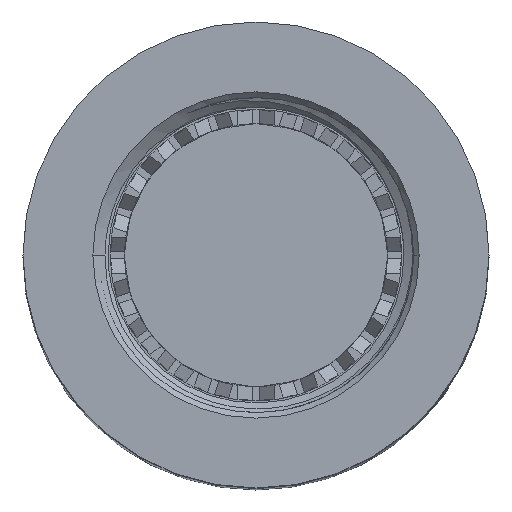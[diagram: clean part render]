
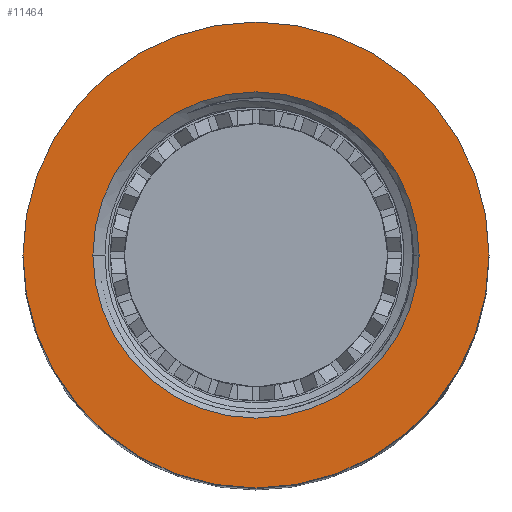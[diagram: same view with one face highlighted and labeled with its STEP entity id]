
A CAD part, top view. The second image highlights one B-rep face of the part: STEP entity #11464.
In plain terms, the highlighted planar face has unit normal (0, 0, 1).
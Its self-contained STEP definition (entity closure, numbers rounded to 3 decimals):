
#540 = EDGE_CURVE ( 'NONE', #5271, #5302, #1246, .T. ) ;
#1090 = AXIS2_PLACEMENT_3D ( 'NONE', #1199, #5090, #7833 ) ;
#1199 = CARTESIAN_POINT ( 'NONE',  ( 13.208, 0., 5.664 ) ) ;
#1246 = CIRCLE ( 'NONE', #12470, 9.246 ) ;
#1370 = DIRECTION ( 'NONE',  ( 1., 0., 0. ) ) ;
#2265 = CIRCLE ( 'NONE', #9408, 13.208 ) ;
#2337 = CARTESIAN_POINT ( 'NONE',  ( 9.246, 0., 5.664 ) ) ;
#2535 = DIRECTION ( 'NONE',  ( 1., 0., 0. ) ) ;
#2750 = EDGE_CURVE ( 'NONE', #9553, #12185, #2265, .T. ) ;
#2884 = EDGE_LOOP ( 'NONE', ( #3890, #6923 ) ) ;
#3232 = CARTESIAN_POINT ( 'NONE',  ( 0., 0., 5.664 ) ) ;
#3445 = CARTESIAN_POINT ( 'NONE',  ( 0., 0., 5.664 ) ) ;
#3890 = ORIENTED_EDGE ( 'NONE', *, *, #540, .T. ) ;
#4189 = AXIS2_PLACEMENT_3D ( 'NONE', #3445, #8644, #2535 ) ;
#4613 = EDGE_LOOP ( 'NONE', ( #9144, #11818 ) ) ;
#5078 = DIRECTION ( 'NONE',  ( 0., 0., -1. ) ) ;
#5090 = DIRECTION ( 'NONE',  ( 0., 0., 1. ) ) ;
#5271 = VERTEX_POINT ( 'NONE', #2337 ) ;
#5302 = VERTEX_POINT ( 'NONE', #7955 ) ;
#5515 = CARTESIAN_POINT ( 'NONE',  ( 0., 0., 5.664 ) ) ;
#5841 = DIRECTION ( 'NONE',  ( 1., 0., 0. ) ) ;
#6061 = FACE_OUTER_BOUND ( 'NONE', #4613, .T. ) ;
#6215 = CIRCLE ( 'NONE', #8252, 9.246 ) ;
#6578 = EDGE_CURVE ( 'NONE', #12185, #9553, #9689, .T. ) ;
#6923 = ORIENTED_EDGE ( 'NONE', *, *, #9708, .T. ) ;
#7739 = CARTESIAN_POINT ( 'NONE',  ( 13.208, 0., 5.664 ) ) ;
#7833 = DIRECTION ( 'NONE',  ( -1., 0., 0. ) ) ;
#7955 = CARTESIAN_POINT ( 'NONE',  ( -9.246, 0., 5.664 ) ) ;
#8252 = AXIS2_PLACEMENT_3D ( 'NONE', #8822, #11973, #5841 ) ;
#8644 = DIRECTION ( 'NONE',  ( 0., 0., -1. ) ) ;
#8822 = CARTESIAN_POINT ( 'NONE',  ( 0., 0., 5.664 ) ) ;
#8968 = DIRECTION ( 'NONE',  ( 1., 0., 0. ) ) ;
#9144 = ORIENTED_EDGE ( 'NONE', *, *, #2750, .F. ) ;
#9407 = DIRECTION ( 'NONE',  ( 0., 0., -1. ) ) ;
#9408 = AXIS2_PLACEMENT_3D ( 'NONE', #3232, #5078, #8968 ) ;
#9553 = VERTEX_POINT ( 'NONE', #7739 ) ;
#9689 = CIRCLE ( 'NONE', #4189, 13.208 ) ;
#9708 = EDGE_CURVE ( 'NONE', #5302, #5271, #6215, .T. ) ;
#9956 = PLANE ( 'NONE',  #1090 ) ;
#10016 = FACE_BOUND ( 'NONE', #2884, .T. ) ;
#11464 = ADVANCED_FACE ( 'NONE', ( #10016, #6061 ), #9956, .T. ) ;
#11818 = ORIENTED_EDGE ( 'NONE', *, *, #6578, .F. ) ;
#11849 = CARTESIAN_POINT ( 'NONE',  ( -13.208, 0., 5.664 ) ) ;
#11973 = DIRECTION ( 'NONE',  ( 0., 0., -1. ) ) ;
#12185 = VERTEX_POINT ( 'NONE', #11849 ) ;
#12470 = AXIS2_PLACEMENT_3D ( 'NONE', #5515, #9407, #1370 ) ;
